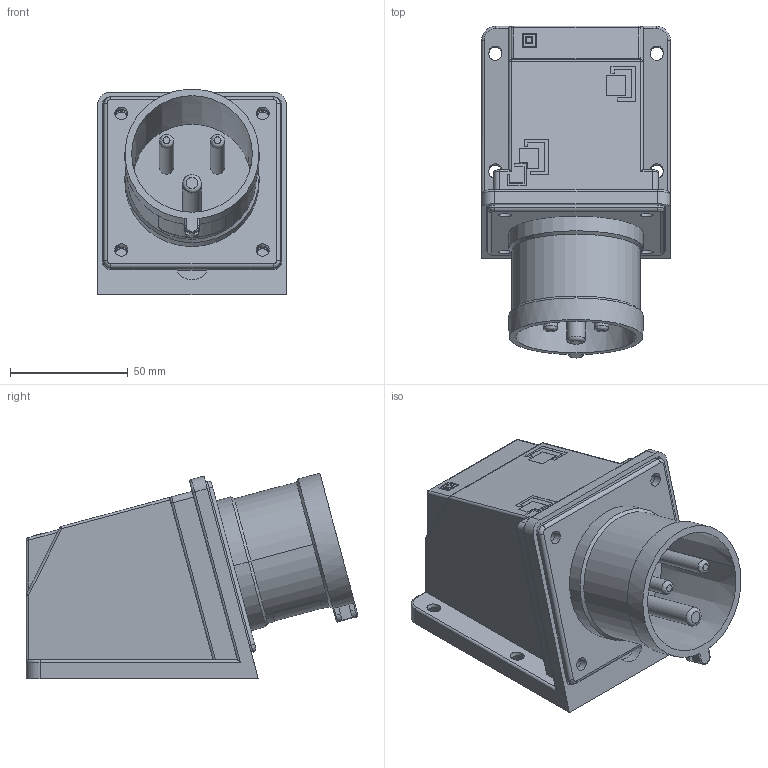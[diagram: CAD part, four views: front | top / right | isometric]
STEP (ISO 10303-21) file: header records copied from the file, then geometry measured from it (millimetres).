
FILE_DESCRIPTION(('FreeCAD Model'),'2;1');
FILE_NAME('Open CASCADE Shape Model','2026-02-04T11:03:41',(''),(''), 'Open CASCADE STEP processor 7.8','FreeCAD','Unknown');
FILE_SCHEMA(('AUTOMOTIVE_DESIGN { 1 0 10303 214 1 1 1 1 }'));
Length unit declared in the file: millimetre
Products named in the file (8): TL3M32432; Estrutura corpo; Tomada; Pino Neutro; Pino Terra; Pino L1; Base interna; Terminais
Assembly tree (7 placements, depth 2):
  TL3M32432
    Estrutura corpo
    Tomada
    Pino Neutro
    Pino Terra
    Pino L1
    Base interna
    Terminais
Bounding box: 80 x 140.8 x 87.13 mm (x, y, z)
Volume: 141505.8 mm3; surface area: 114395.7 mm2
Topology: 7 solids, 7 shells, 669 faces, 1706 edges, 1101 vertices
Faces by surface type: plane 342, cylinder 218, bspline 60, torus 25, cone 14, sphere 10
Full cylindrical faces by diameter (mm): 6 x2, 8 x1
Entity records: 28662 total; most frequent: CARTESIAN_POINT 12361, ORIENTED_EDGE 3412, DIRECTION 3224, EDGE_CURVE 1706, AXIS2_PLACEMENT_3D 1111, VERTEX_POINT 1101, LINE 1002, VECTOR 1002
